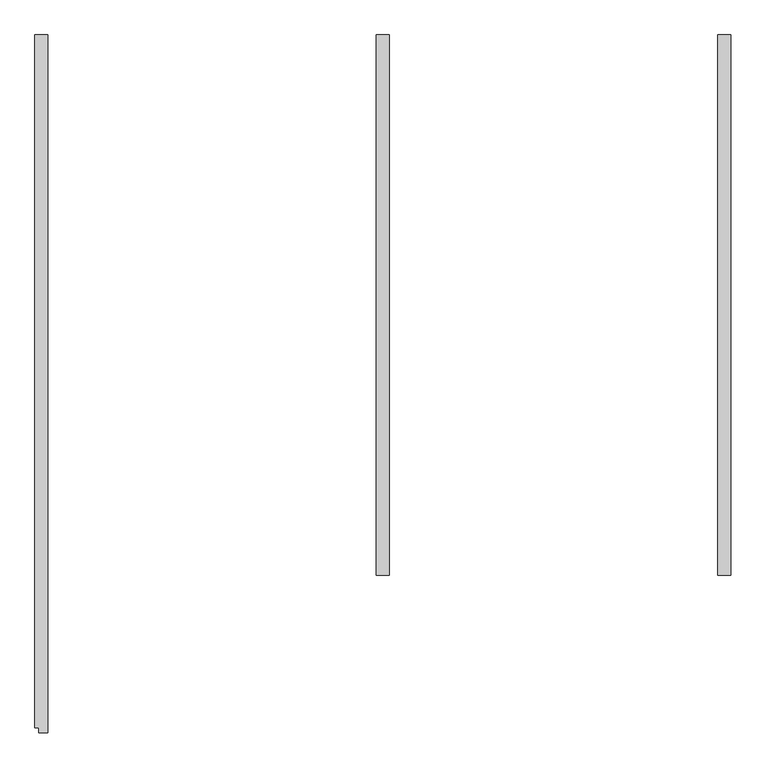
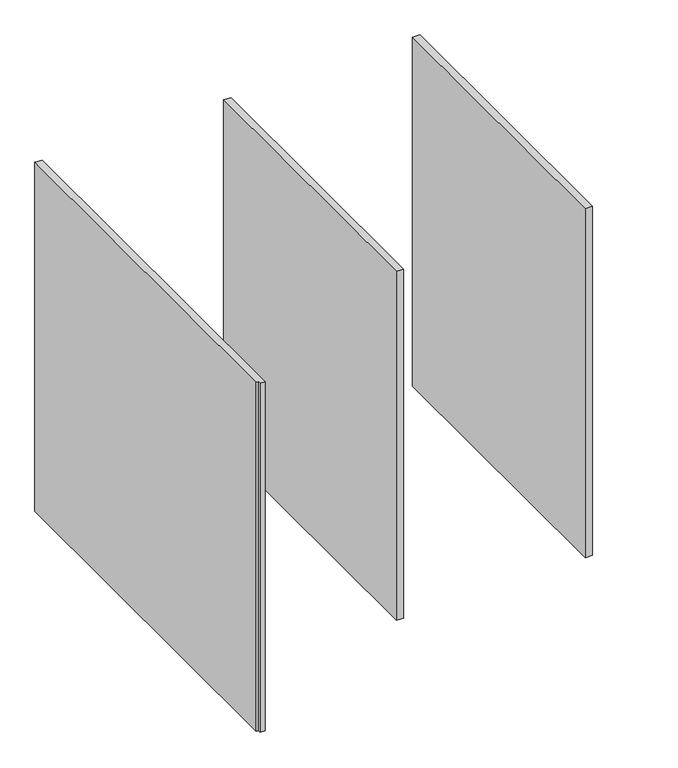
"""IFC4 building model written with IfcOpenShell, lengths in millimetres: proxy geometry, Partition_EuroStyle-Bradley_Corp-ADA_Alcove_4StandardStall-LOFT : Partition_EuroStyle-Bradley_Corp-ADA_Alcove_4StandardStall-LOFT."""

from ifc_helpers import new_model, si_unit, frame, origin, place, context, project, spatial, polyline, outline, extrude, source, transform, mapped, element, save


def specialty_equipment_c0fd9598(model_context):
    return source(origin(), model_context, "Body", "SweptSolid", [
        extrude(outline(polyline([(3450.2203251, -1514.0), (3450.2203251, -9.9993891), (3486.2203251, -9.9993891), (3486.2203251, -1514.0), (3450.2203251, -1514.0)])), frame((0.0, 0.0, 150.0), z_axis=(0.0, 0.0, 1.0), x_axis=(1.0, 0.0, 0.0)), (0.0, 0.0, 1.0), 1855.0),
        extrude(outline(polyline([(2499.8203251, -1514.0), (2499.8203251, -9.9993891), (2535.8203251, -9.9993891), (2535.8203251, -1514.0), (2499.8203251, -1514.0)])), frame((0.0, 0.0, 150.0), z_axis=(0.0, 0.0, 1.0), x_axis=(1.0, 0.0, 0.0)), (0.0, 0.0, 1.0), 1855.0),
        extrude(outline(polyline([(1549.4, -1938.4920045), (1549.4, -9.9993891), (1585.4203251, -9.9993891), (1585.4203251, -1952.5791451), (1560.4056866, -1952.5791451), (1560.4056866, -1938.4920045), (1549.4, -1938.4920045)])), frame((0.0, 0.0, 150.0), z_axis=(0.0, 0.0, 1.0), x_axis=(1.0, 0.0, 0.0)), (0.0, 0.0, 1.0), 1855.0),
    ])


if __name__ == "__main__":
    model = new_model("IFC4")
    model_context = context("Model", 3, world=origin())
    ifc_project = project(units=[si_unit("LENGTHUNIT", "METRE", prefix="MILLI")], contexts=[model_context])
    site = spatial("IfcSite", under=ifc_project)
    building = spatial("IfcBuilding", under=site)
    placement = place(None, origin())
    specialty_equipment_shape = specialty_equipment_c0fd9598(model_context)
    element("IfcBuildingElementProxy", 1, Name="Partition_EuroStyle-Bradley_Corp-ADA_Alcove_4StandardStall-LOFT : Partition_EuroStyle-Bradley_Corp-ADA_Alcove_4StandardStall-LOFT", ObjectType="Partition_EuroStyle-Bradley_Corp-ADA_Alcove_4StandardStall-LOFT : Partition_EuroStyle-Bradley_Corp-ADA_Alcove_4StandardStall-LOFT", at=placement, inside=building, context=model_context, shape_type="MappedRepresentation", body=[
        mapped(specialty_equipment_shape, transform((0.0, 0.0, 0.0), x_axis=(1.0, 0.0, 0.0), y_axis=(0.0, 1.0, 0.0), z_axis=(0.0, 0.0, 1.0))),
    ])
    save(model, "model.ifc")
